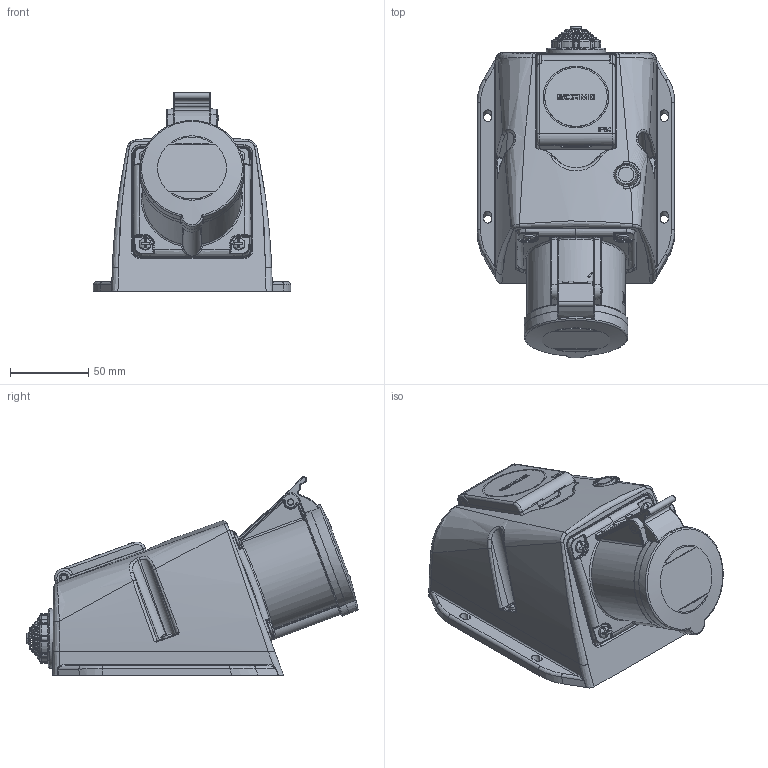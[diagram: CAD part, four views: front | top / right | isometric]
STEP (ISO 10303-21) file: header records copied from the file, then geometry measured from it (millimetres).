
FILE_DESCRIPTION(/* description */ (''),/* implementation_level */ '2;1');
FILE_NAME(/* name */ '4006870.stp',/* time_stamp */ '2017-05-04T19:47:59+02:00',/* author */ (''),/* organization */ (''),/* preprocessor_version */ 'ST-DEVELOPER v16',/* originating_system */ 'SIEMENS PLM Software NX 11.0',/* authorisation */ '');
FILE_SCHEMA (('AUTOMOTIVE_DESIGN { 1 0 10303 214 3 1 1 1 }'));
Length unit declared in the file: millimetre
Products named in the file (1): 4006870_LINKEDEXT_jt
Bounding box: 126.5 x 212.44 x 127.03 mm (x, y, z)
Surface area: 114484.1 mm2 (no closed solid volume)
Topology: 0 solids, 61 shells, 743 faces, 2902 edges, 2099 vertices
Faces by surface type: bspline 286, cylinder 219, plane 188, torus 27, cone 15, sphere 8
Full cylindrical faces by diameter (mm): 0.998 x3, 4 x2, 7.1 x1, 7.6 x6, 38 x1
Entity records: 76761 total; most frequent: CARTESIAN_POINT 51217, ORIENTED_EDGE 4029, DIRECTION 3290, EDGE_CURVE 2830, VERTEX_POINT 2086, AXIS2_PLACEMENT_3D 1124, B_SPLINE_CURVE_WITH_KNOTS 1113, LINE 1042
